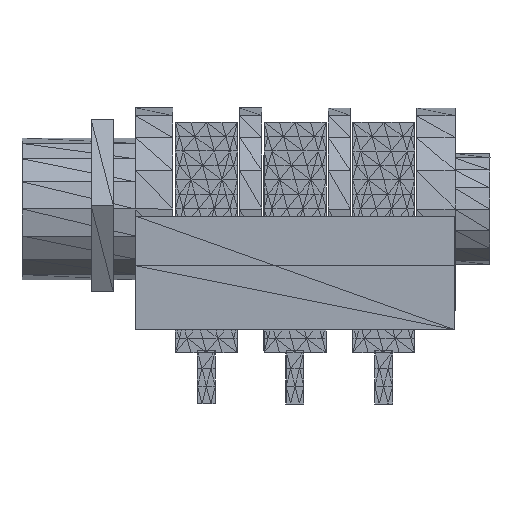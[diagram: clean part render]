
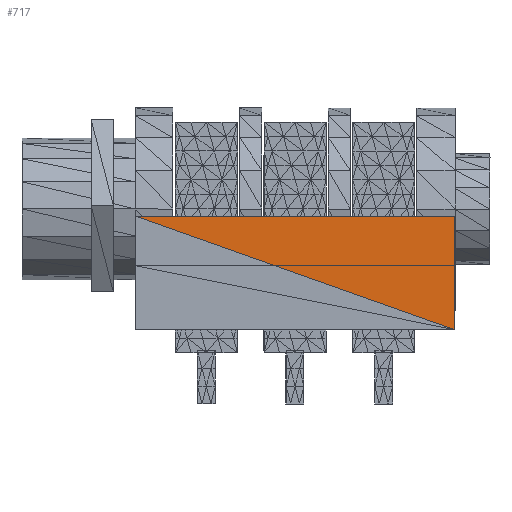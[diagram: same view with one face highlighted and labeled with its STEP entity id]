
A CAD part, front view. The second image highlights one B-rep face of the part: STEP entity #717.
In plain terms, the highlighted planar face has unit normal (0, -1, 0).
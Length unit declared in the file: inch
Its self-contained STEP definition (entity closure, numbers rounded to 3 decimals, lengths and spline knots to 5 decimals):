
#546=CARTESIAN_POINT('',(0.90024,-0.35224,0.41724));
#547=VERTEX_POINT('',#546);
#577=CARTESIAN_POINT('',(0.00024,-0.3525,0.4175));
#578=VERTEX_POINT('',#577);
#585=CARTESIAN_POINT('',(0.90024,-0.35224,0.41724));
#586=DIRECTION('',(-1.,0.,0.));
#587=VECTOR('',#586,0.9);
#588=LINE('',#585,#587);
#589=EDGE_CURVE('',#547,#578,#588,.T.);
#685=CARTESIAN_POINT('',(0.90015,-0.35224,0.09724));
#686=VERTEX_POINT('',#685);
#693=CARTESIAN_POINT('',(0.90015,-0.35224,0.09724));
#694=DIRECTION('',(-0.942,0.,0.335));
#695=VECTOR('',#694,0.9552);
#696=LINE('',#693,#695);
#697=EDGE_CURVE('',#686,#578,#696,.T.);
#702=CARTESIAN_POINT('',(0.00026,-0.3525,0.4175));
#703=DIRECTION('',(0.,1.,0.));
#704=DIRECTION('',(1.,0.,0.));
#705=AXIS2_PLACEMENT_3D('',#702,#703,#704);
#706=PLANE('',#705);
#707=ORIENTED_EDGE('',*,*,#697,.F.);
#708=CARTESIAN_POINT('',(0.90015,-0.35224,0.09724));
#709=DIRECTION('',(0.,0.,1.));
#710=VECTOR('',#709,0.32);
#711=LINE('',#708,#710);
#712=EDGE_CURVE('',#686,#547,#711,.T.);
#713=ORIENTED_EDGE('',*,*,#712,.T.);
#714=ORIENTED_EDGE('',*,*,#589,.T.);
#715=EDGE_LOOP('',(#707,#713,#714));
#716=FACE_BOUND('',#715,.T.);
#717=ADVANCED_FACE('',(#716),#706,.F.);
